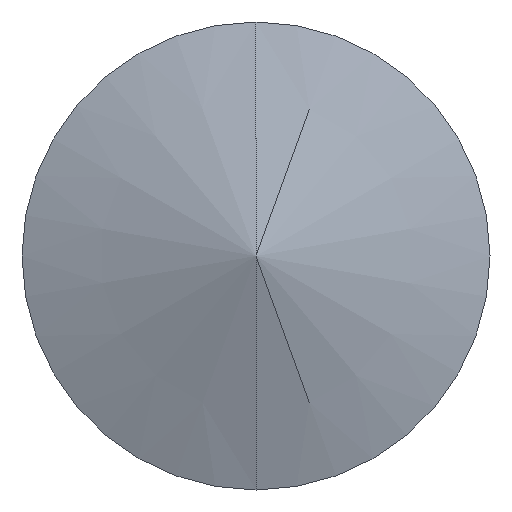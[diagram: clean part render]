
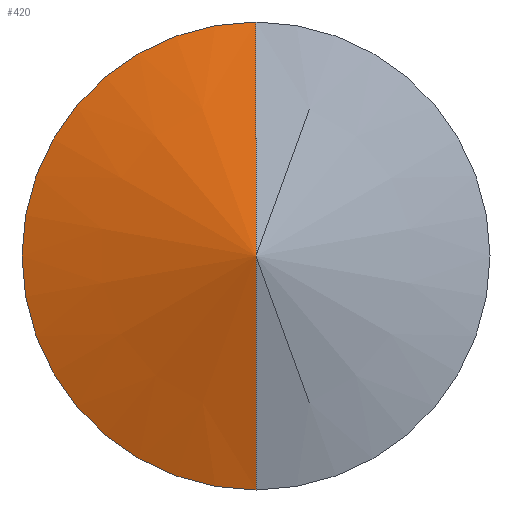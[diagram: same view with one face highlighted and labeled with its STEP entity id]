
A CAD part, left-side view. The second image highlights one B-rep face of the part: STEP entity #420.
In plain terms, the highlighted conical face has half-angle 72 degrees and reference radius 4 mm.
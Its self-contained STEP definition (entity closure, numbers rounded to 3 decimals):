
#27 = CARTESIAN_POINT ( 'NONE',  ( -2., 0., 4. ) ) ;
#37 = EDGE_LOOP ( 'NONE', ( #205, #48, #152 ) ) ;
#48 = ORIENTED_EDGE ( 'NONE', *, *, #436, .T. ) ;
#80 = DIRECTION ( 'NONE',  ( 1., 0., 0. ) ) ;
#93 = DIRECTION ( 'NONE',  ( 0.309, 0., -0.951 ) ) ;
#100 = CARTESIAN_POINT ( 'NONE',  ( -2., 0., -4. ) ) ;
#102 = FACE_OUTER_BOUND ( 'NONE', #37, .T. ) ;
#103 = DIRECTION ( 'NONE',  ( 0.309, 0., 0.951 ) ) ;
#117 = CARTESIAN_POINT ( 'NONE',  ( -2., 0., 0. ) ) ;
#143 = AXIS2_PLACEMENT_3D ( 'NONE', #183, #404, #444 ) ;
#152 = ORIENTED_EDGE ( 'NONE', *, *, #285, .F. ) ;
#164 = CONICAL_SURFACE ( 'NONE', #197, 4., 1.257 ) ;
#183 = CARTESIAN_POINT ( 'NONE',  ( -2., 0., 0. ) ) ;
#197 = AXIS2_PLACEMENT_3D ( 'NONE', #117, #80, #366 ) ;
#201 = CARTESIAN_POINT ( 'NONE',  ( -3.3, 0., 0. ) ) ;
#205 = ORIENTED_EDGE ( 'NONE', *, *, #415, .F. ) ;
#210 = VERTEX_POINT ( 'NONE', #269 ) ;
#241 = VERTEX_POINT ( 'NONE', #201 ) ;
#242 = CIRCLE ( 'NONE', #143, 4. ) ;
#255 = VECTOR ( 'NONE', #103, 1000. ) ;
#269 = CARTESIAN_POINT ( 'NONE',  ( -2., 0., -4. ) ) ;
#285 = EDGE_CURVE ( 'NONE', #210, #418, #242, .T. ) ;
#286 = LINE ( 'NONE', #100, #352 ) ;
#299 = CARTESIAN_POINT ( 'NONE',  ( -2., 0., 4. ) ) ;
#352 = VECTOR ( 'NONE', #93, 1000. ) ;
#363 = LINE ( 'NONE', #299, #255 ) ;
#366 = DIRECTION ( 'NONE',  ( 0., 0., -1. ) ) ;
#404 = DIRECTION ( 'NONE',  ( 1., 0., 0. ) ) ;
#415 = EDGE_CURVE ( 'NONE', #241, #210, #286, .T. ) ;
#418 = VERTEX_POINT ( 'NONE', #27 ) ;
#420 = ADVANCED_FACE ( 'NONE', ( #102 ), #164, .T. ) ;
#436 = EDGE_CURVE ( 'NONE', #241, #418, #363, .T. ) ;
#444 = DIRECTION ( 'NONE',  ( 0., 0., -1. ) ) ;
